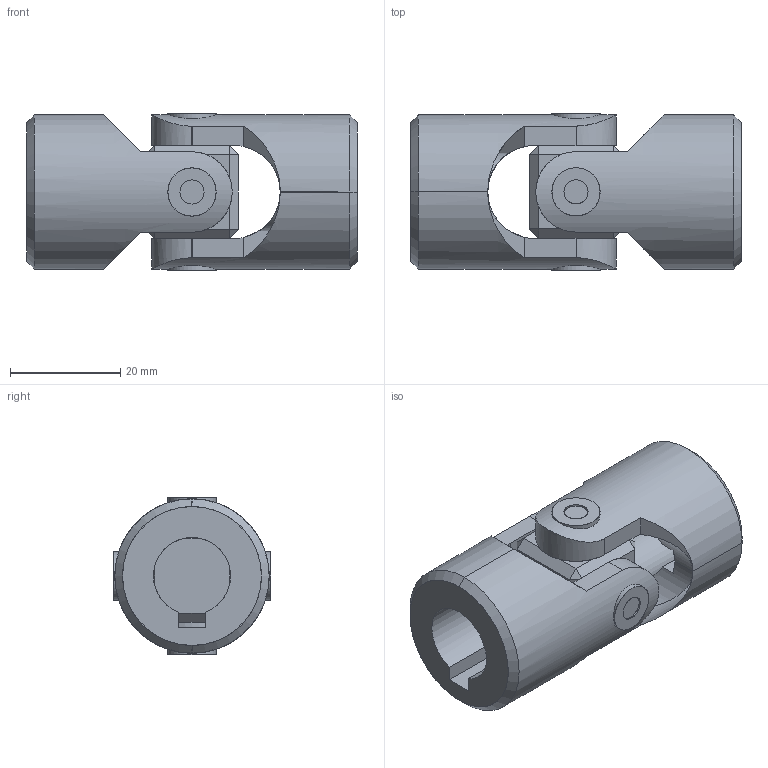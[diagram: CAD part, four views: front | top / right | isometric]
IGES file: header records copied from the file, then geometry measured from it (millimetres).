
Start section: SolidWorks IGES file using analytic representation for surfaces
Global section: file name: C:\Users\IanO\Desktop\R3690_v2\R3690_v2_20231020_IGES\R3690.014-KW.igs; native system: SolidWorks 2019; preprocessor: SolidWorks 2019; author: IanO; date: 231020.152447; units: millimetre
Bounding box: 60 x 28.56 x 28.56 mm (x, y, z)
Surface area: 12568.6 mm2 (no closed solid volume)
Topology: 0 solids, 0 shells, 110 faces, 2196 edges, 2196 vertices
Faces by surface type: bspline 62, revolution 48
